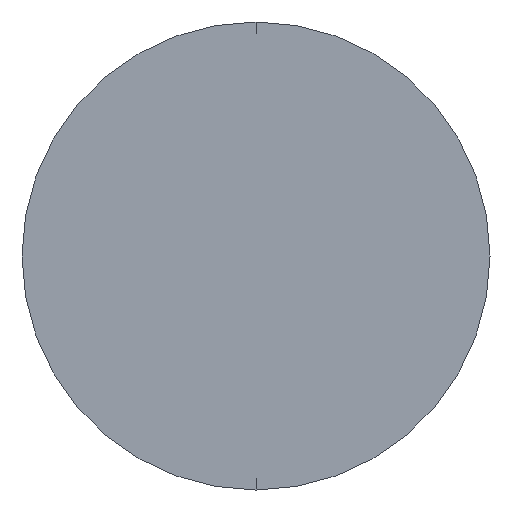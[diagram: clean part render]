
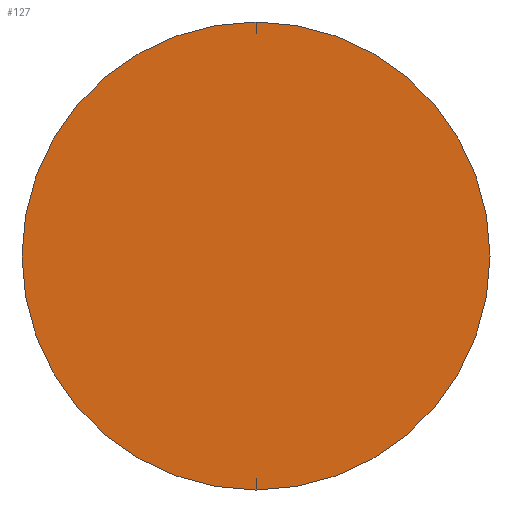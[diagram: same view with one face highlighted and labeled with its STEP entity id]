
A CAD part, left-side view. The second image highlights one B-rep face of the part: STEP entity #127.
In plain terms, the highlighted planar face has unit normal (-1, 0, 0).
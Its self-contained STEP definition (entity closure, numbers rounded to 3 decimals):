
#34 = CARTESIAN_POINT ( 'NONE',  ( 0., 0., 0. ) ) ;
#36 = AXIS2_PLACEMENT_3D ( 'NONE', #34, #121, #244 ) ;
#37 = CIRCLE ( 'NONE', #36, 1.6 ) ;
#53 = CARTESIAN_POINT ( 'NONE',  ( 0., 0., 0. ) ) ;
#58 = PLANE ( 'NONE',  #236 ) ;
#67 = VERTEX_POINT ( 'NONE', #111 ) ;
#69 = CIRCLE ( 'NONE', #181, 1.6 ) ;
#96 = DIRECTION ( 'NONE',  ( 1., 0., 0. ) ) ;
#98 = VERTEX_POINT ( 'NONE', #119 ) ;
#111 = CARTESIAN_POINT ( 'NONE',  ( 0., 0., -1.6 ) ) ;
#119 = CARTESIAN_POINT ( 'NONE',  ( 0., 0., 1.6 ) ) ;
#121 = DIRECTION ( 'NONE',  ( -1., 0., 0. ) ) ;
#127 = ADVANCED_FACE ( 'NONE', ( #256 ), #58, .F. ) ;
#130 = EDGE_LOOP ( 'NONE', ( #134, #203 ) ) ;
#134 = ORIENTED_EDGE ( 'NONE', *, *, #292, .T. ) ;
#181 = AXIS2_PLACEMENT_3D ( 'NONE', #277, #285, #260 ) ;
#187 = DIRECTION ( 'NONE',  ( 0., 0., -1. ) ) ;
#199 = EDGE_CURVE ( 'NONE', #67, #98, #37, .T. ) ;
#203 = ORIENTED_EDGE ( 'NONE', *, *, #199, .T. ) ;
#236 = AXIS2_PLACEMENT_3D ( 'NONE', #53, #96, #187 ) ;
#244 = DIRECTION ( 'NONE',  ( 0., 0., 1. ) ) ;
#256 = FACE_OUTER_BOUND ( 'NONE', #130, .T. ) ;
#260 = DIRECTION ( 'NONE',  ( 0., 0., 1. ) ) ;
#277 = CARTESIAN_POINT ( 'NONE',  ( 0., 0., 0. ) ) ;
#285 = DIRECTION ( 'NONE',  ( -1., 0., 0. ) ) ;
#292 = EDGE_CURVE ( 'NONE', #98, #67, #69, .T. ) ;
